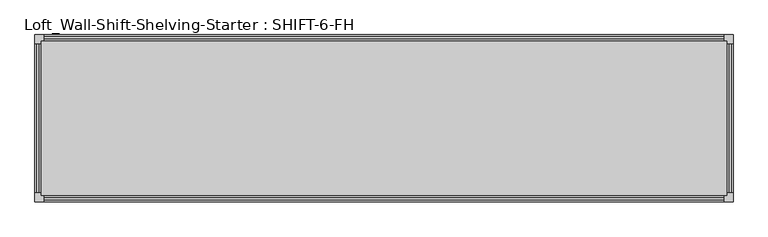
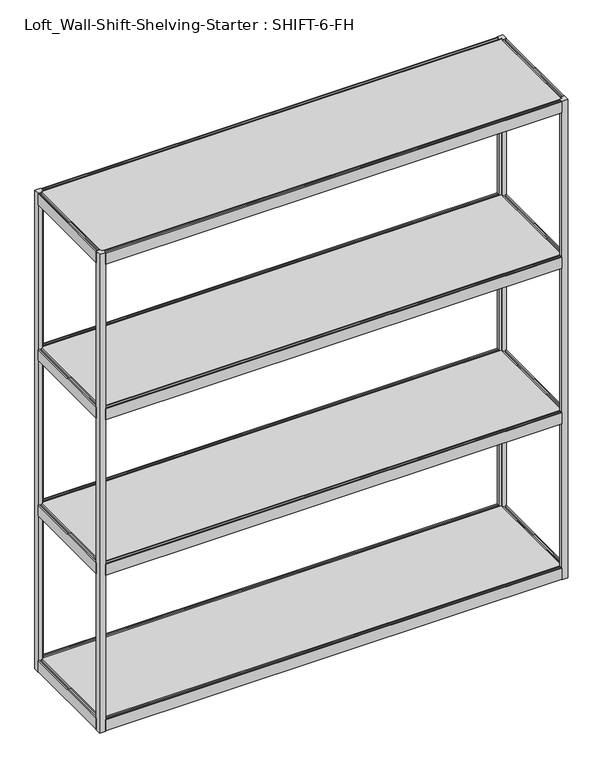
"""IFC4 building model written with IfcOpenShell, lengths in millimetres: furniture geometry, Loft_Wall-Shift-Shelving-Starter : SHIFT-6-FH."""

from ifc_helpers import new_model, si_unit, frame, origin, origin_with_axes, place, context, project, spatial, polyline, outline, extrude, source, transform, mapped, element, save


def loft_wall_shift_shelving_starter_shift_6_fh_b3093a74(model_context):
    return source(origin(), model_context, "Body", "SweptSolid", [
        extrude(outline(polyline([(1330.8965, -609.6), (1285.6845, -609.6), (1285.6845, -605.5868), (1293.3426, -605.5868), (1293.3426, -598.3732), (1285.6845, -598.3732), (1285.6845, -594.36), (1330.8965, -594.36), (1330.8965, -598.3732), (1323.2384, -598.3732), (1323.2384, -605.5868), (1330.8965, -605.5868), (1330.8965, -609.6)])), frame((0.0, -196.215, 0.0), z_axis=(0.0, 1.0, 0.0), x_axis=(0.0, 0.0, 1.0)), (0.0, 0.0, 1.0), 392.43),
        extrude(outline(polyline([(1330.8965, 1219.2), (1330.8965, 1215.1868), (1323.2384, 1215.1868), (1323.2384, 1207.9732), (1330.8965, 1207.9732), (1330.8965, 1203.96), (1285.6845, 1203.96), (1285.6845, 1207.9732), (1293.3426, 1207.9732), (1293.3426, 1215.1868), (1285.6845, 1215.1868), (1285.6845, 1219.2), (1330.8965, 1219.2)])), frame((0.0, -196.215, 0.0), z_axis=(0.0, 1.0, 0.0), x_axis=(0.0, 0.0, 1.0)), (0.0, 0.0, 1.0), 392.43),
        extrude(outline(polyline([(-203.835, 1285.6845), (-207.8482, 1285.6845), (-207.8482, 1293.3426), (-215.0618, 1293.3426), (-215.0618, 1285.6845), (-219.075, 1285.6845), (-219.075, 1330.8965), (-215.0618, 1330.8965), (-215.0618, 1323.2384), (-207.8482, 1323.2384), (-207.8482, 1330.8965), (-203.835, 1330.8965), (-203.835, 1285.6845)])), frame((-586.74, 0.0, 0.0), z_axis=(1.0, 0.0, 0.0), x_axis=(0.0, 1.0, 0.0)), (0.0, 0.0, 1.0), 1783.08),
        extrude(outline(polyline([(203.835, 1285.6845), (203.835, 1330.8965), (207.8482, 1330.8965), (207.8482, 1323.2384), (215.0618, 1323.2384), (215.0618, 1330.8965), (219.075, 1330.8965), (219.075, 1285.6845), (215.0618, 1285.6845), (215.0618, 1293.3426), (207.8482, 1293.3426), (207.8482, 1285.6845), (203.835, 1285.6845)])), frame((-586.74, 0.0, 0.0), z_axis=(1.0, 0.0, 0.0), x_axis=(0.0, 1.0, 0.0)), (0.0, 0.0, 1.0), 1783.08),
        extrude(outline(polyline([(1203.96, 203.835), (1203.96, -203.835), (-594.36, -203.835), (-594.36, 203.835), (1203.96, 203.835)])), frame((0.0, 0.0, 1315.4631509), z_axis=(0.0, 0.0, 1.0), x_axis=(1.0, 0.0, 0.0)), (0.0, 0.0, 1.0), 15.4333491),
        extrude(outline(polyline([(689.1655, -609.6), (643.9535, -609.6), (643.9535, -605.5868), (651.6116, -605.5868), (651.6116, -598.3732), (643.9535, -598.3732), (643.9535, -594.36), (689.1655, -594.36), (689.1655, -598.3732), (681.5074, -598.3732), (681.5074, -605.5868), (689.1655, -605.5868), (689.1655, -609.6)])), frame((0.0, -196.215, 0.0), z_axis=(0.0, 1.0, 0.0), x_axis=(0.0, 0.0, 1.0)), (0.0, 0.0, 1.0), 392.43),
        extrude(outline(polyline([(689.1655, 1219.2), (689.1655, 1215.1868), (681.5074, 1215.1868), (681.5074, 1207.9732), (689.1655, 1207.9732), (689.1655, 1203.96), (643.9535, 1203.96), (643.9535, 1207.9732), (651.6116, 1207.9732), (651.6116, 1215.1868), (643.9535, 1215.1868), (643.9535, 1219.2), (689.1655, 1219.2)])), frame((0.0, -196.215, 0.0), z_axis=(0.0, 1.0, 0.0), x_axis=(0.0, 0.0, 1.0)), (0.0, 0.0, 1.0), 392.43),
        extrude(outline(polyline([(-203.835, 643.9535), (-207.8482, 643.9535), (-207.8482, 651.6116), (-215.0618, 651.6116), (-215.0618, 643.9535), (-219.075, 643.9535), (-219.075, 689.1655), (-215.0618, 689.1655), (-215.0618, 681.5074), (-207.8482, 681.5074), (-207.8482, 689.1655), (-203.835, 689.1655), (-203.835, 643.9535)])), frame((-586.74, 0.0, 0.0), z_axis=(1.0, 0.0, 0.0), x_axis=(0.0, 1.0, 0.0)), (0.0, 0.0, 1.0), 1783.08),
        extrude(outline(polyline([(203.835, 643.9535), (203.835, 689.1655), (207.8482, 689.1655), (207.8482, 681.5074), (215.0618, 681.5074), (215.0618, 689.1655), (219.075, 689.1655), (219.075, 643.9535), (215.0618, 643.9535), (215.0618, 651.6116), (207.8482, 651.6116), (207.8482, 643.9535), (203.835, 643.9535)])), frame((-586.74, 0.0, 0.0), z_axis=(1.0, 0.0, 0.0), x_axis=(0.0, 1.0, 0.0)), (0.0, 0.0, 1.0), 1783.08),
        extrude(outline(polyline([(1203.96, 203.835), (1203.96, -203.835), (-594.36, -203.835), (-594.36, 203.835), (1203.96, 203.835)])), frame((0.0, 0.0, 673.7321509), z_axis=(0.0, 0.0, 1.0), x_axis=(1.0, 0.0, 0.0)), (0.0, 0.0, 1.0), 15.4333491),
        extrude(outline(polyline([(1972.6275, -609.6), (1927.4155, -609.6), (1927.4155, -605.5868), (1935.0736, -605.5868), (1935.0736, -598.3732), (1927.4155, -598.3732), (1927.4155, -594.36), (1972.6275, -594.36), (1972.6275, -598.3732), (1964.9694, -598.3732), (1964.9694, -605.5868), (1972.6275, -605.5868), (1972.6275, -609.6)])), frame((0.0, -196.215, 0.0), z_axis=(0.0, 1.0, 0.0), x_axis=(0.0, 0.0, 1.0)), (0.0, 0.0, 1.0), 392.43),
        extrude(outline(polyline([(1972.6275, 1219.2), (1972.6275, 1215.1868), (1964.9694, 1215.1868), (1964.9694, 1207.9732), (1972.6275, 1207.9732), (1972.6275, 1203.96), (1927.4155, 1203.96), (1927.4155, 1207.9732), (1935.0736, 1207.9732), (1935.0736, 1215.1868), (1927.4155, 1215.1868), (1927.4155, 1219.2), (1972.6275, 1219.2)])), frame((0.0, -196.215, 0.0), z_axis=(0.0, 1.0, 0.0), x_axis=(0.0, 0.0, 1.0)), (0.0, 0.0, 1.0), 392.43),
        extrude(outline(polyline([(-203.835, 1927.4155), (-207.8482, 1927.4155), (-207.8482, 1935.0736), (-215.0618, 1935.0736), (-215.0618, 1927.4155), (-219.075, 1927.4155), (-219.075, 1972.6275), (-215.0618, 1972.6275), (-215.0618, 1964.9694), (-207.8482, 1964.9694), (-207.8482, 1972.6275), (-203.835, 1972.6275), (-203.835, 1927.4155)])), frame((-586.74, 0.0, 0.0), z_axis=(1.0, 0.0, 0.0), x_axis=(0.0, 1.0, 0.0)), (0.0, 0.0, 1.0), 1783.08),
        extrude(outline(polyline([(203.835, 1927.4155), (203.835, 1972.6275), (207.8482, 1972.6275), (207.8482, 1964.9694), (215.0618, 1964.9694), (215.0618, 1972.6275), (219.075, 1972.6275), (219.075, 1927.4155), (215.0618, 1927.4155), (215.0618, 1935.0736), (207.8482, 1935.0736), (207.8482, 1927.4155), (203.835, 1927.4155)])), frame((-586.74, 0.0, 0.0), z_axis=(1.0, 0.0, 0.0), x_axis=(0.0, 1.0, 0.0)), (0.0, 0.0, 1.0), 1783.08),
        extrude(outline(polyline([(1203.96, 203.835), (1203.96, -203.835), (-594.36, -203.835), (-594.36, 203.835), (1203.96, 203.835)])), frame((0.0, 0.0, 1957.1941509), z_axis=(0.0, 0.0, 1.0), x_axis=(1.0, 0.0, 0.0)), (0.0, 0.0, 1.0), 15.4333491),
        extrude(outline(polyline([(47.4345, -609.6), (2.2225, -609.6), (2.2225, -605.5868), (9.8806, -605.5868), (9.8806, -598.3732), (2.2225, -598.3732), (2.2225, -594.36), (47.4345, -594.36), (47.4345, -598.3732), (39.7764, -598.3732), (39.7764, -605.5868), (47.4345, -605.5868), (47.4345, -609.6)])), frame((0.0, -196.215, 0.0), z_axis=(0.0, 1.0, 0.0), x_axis=(0.0, 0.0, 1.0)), (0.0, 0.0, 1.0), 392.43),
        extrude(outline(polyline([(47.4345, 1219.2), (47.4345, 1215.1868), (39.7764, 1215.1868), (39.7764, 1207.9732), (47.4345, 1207.9732), (47.4345, 1203.96), (2.2225, 1203.96), (2.2225, 1207.9732), (9.8806, 1207.9732), (9.8806, 1215.1868), (2.2225, 1215.1868), (2.2225, 1219.2), (47.4345, 1219.2)])), frame((0.0, -196.215, 0.0), z_axis=(0.0, 1.0, 0.0), x_axis=(0.0, 0.0, 1.0)), (0.0, 0.0, 1.0), 392.43),
        extrude(outline(polyline([(-203.835, 2.2225), (-207.8482, 2.2225), (-207.8482, 9.8806), (-215.0618, 9.8806), (-215.0618, 2.2225), (-219.075, 2.2225), (-219.075, 47.4345), (-215.0618, 47.4345), (-215.0618, 39.7764), (-207.8482, 39.7764), (-207.8482, 47.4345), (-203.835, 47.4345), (-203.835, 2.2225)])), frame((-586.74, 0.0, 0.0), z_axis=(1.0, 0.0, 0.0), x_axis=(0.0, 1.0, 0.0)), (0.0, 0.0, 1.0), 1783.08),
        extrude(outline(polyline([(203.835, 2.2225), (203.835, 47.4345), (207.8482, 47.4345), (207.8482, 39.7764), (215.0618, 39.7764), (215.0618, 47.4345), (219.075, 47.4345), (219.075, 2.2225), (215.0618, 2.2225), (215.0618, 9.8806), (207.8482, 9.8806), (207.8482, 2.2225), (203.835, 2.2225)])), frame((-586.74, 0.0, 0.0), z_axis=(1.0, 0.0, 0.0), x_axis=(0.0, 1.0, 0.0)), (0.0, 0.0, 1.0), 1783.08),
        extrude(outline(polyline([(1203.96, 203.835), (1203.96, -203.835), (-594.36, -203.835), (-594.36, 203.835), (1203.96, 203.835)])), frame((0.0, 0.0, 32.0011509), z_axis=(0.0, 0.0, 1.0), x_axis=(1.0, 0.0, 0.0)), (0.0, 0.0, 1.0), 15.4333491),
        extrude(outline(polyline([(-586.74, -203.835), (-586.74, -219.075), (-609.6, -219.075), (-609.6, -196.215), (-594.36, -196.215), (-594.36, -203.835), (-586.74, -203.835)])), origin_with_axes(), (0.0, 0.0, 1.0), 1974.85),
        extrude(outline(polyline([(1196.34, -203.835), (1203.96, -203.835), (1203.96, -196.215), (1219.2, -196.215), (1219.2, -219.075), (1196.34, -219.075), (1196.34, -203.835)])), origin_with_axes(), (0.0, 0.0, 1.0), 1974.85),
        extrude(outline(polyline([(-586.74, 203.835), (-594.36, 203.835), (-594.36, 196.215), (-609.6, 196.215), (-609.6, 219.075), (-586.74, 219.075), (-586.74, 203.835)])), origin_with_axes(), (0.0, 0.0, 1.0), 1974.85),
        extrude(outline(polyline([(1196.34, 203.835), (1196.34, 219.075), (1219.2, 219.075), (1219.2, 196.215), (1203.96, 196.215), (1203.96, 203.835), (1196.34, 203.835)])), origin_with_axes(), (0.0, 0.0, 1.0), 1974.85),
    ])


if __name__ == "__main__":
    model = new_model("IFC4")
    model_context = context("Model", 3, world=origin())
    ifc_project = project(units=[si_unit("LENGTHUNIT", "METRE", prefix="MILLI")], contexts=[model_context])
    site = spatial("IfcSite", under=ifc_project)
    building = spatial("IfcBuilding", under=site)
    placement = place(None, origin())
    loft_wall_shift_shelving_starter_shift_6_fh_shape = loft_wall_shift_shelving_starter_shift_6_fh_b3093a74(model_context)
    element("IfcFurniture", 1, ObjectType="Loft_Wall-Shift-Shelving-Starter : SHIFT-6-FH", at=placement, inside=building, context=model_context, shape_type="MappedRepresentation", body=[
        mapped(loft_wall_shift_shelving_starter_shift_6_fh_shape, transform((0.0, 0.0, 0.0), x_axis=(1.0, 0.0, 0.0), y_axis=(0.0, 1.0, 0.0), z_axis=(0.0, 0.0, 1.0))),
    ])
    save(model, "model.ifc")
